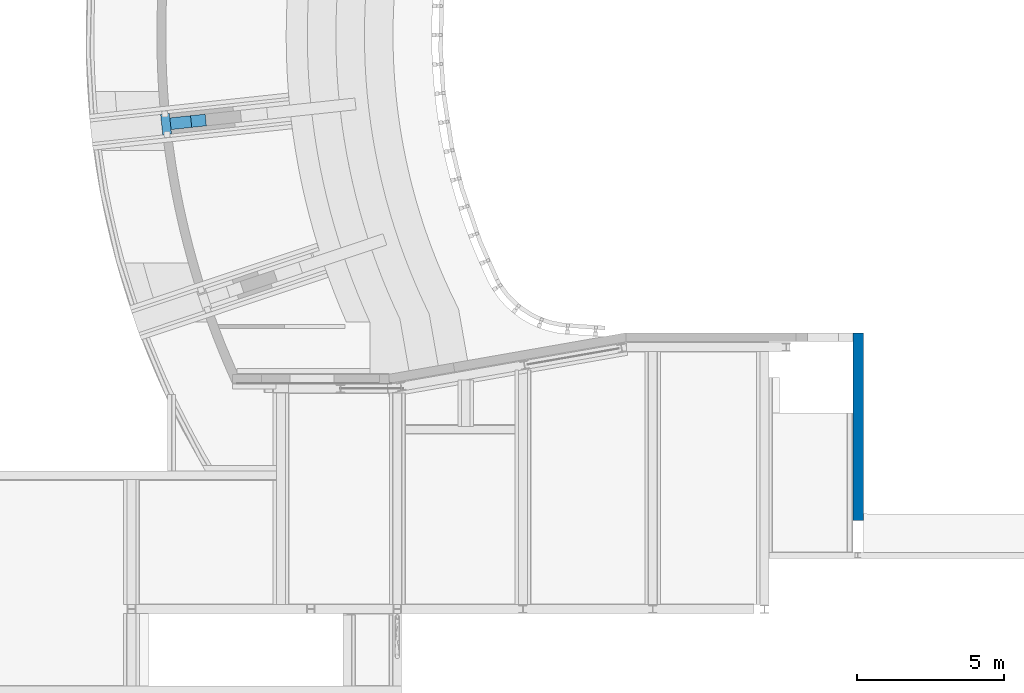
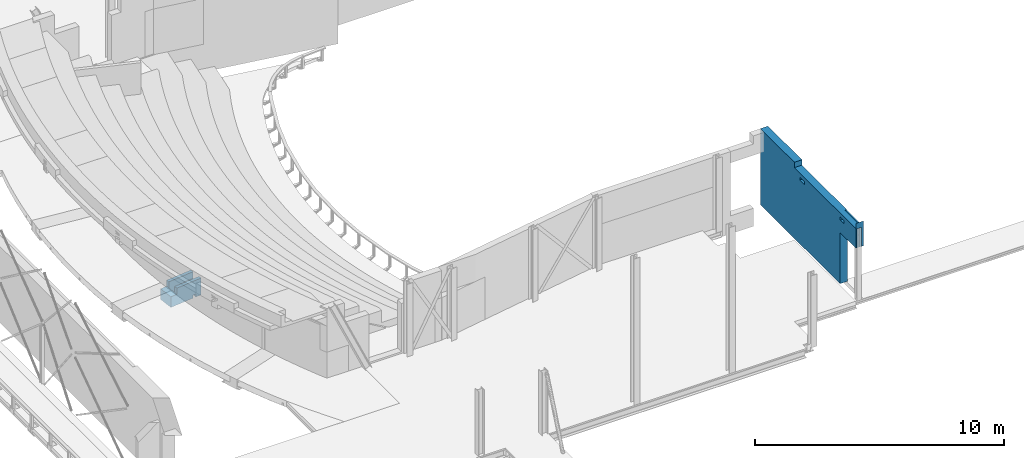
# One storey, part 66 of 68: 2 walls.
"""IFC2X3 building model written with IfcOpenShell, lengths in millimetres."""

from ifc_helpers import new_model, entity, si_unit, converted_unit, derived_unit, direction, frame, origin, place, context, subcontext, project, spatial, faceted_brep, material, layer, layer_set, type_object, element, save


model = new_model("IFC2X3")

# Units and contexts
model_context = context("Model", 3, precision=0.01, world=origin(), true_north=direction((6.12303176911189e-17, 1.0)))
body_context = subcontext(model_context, "Body", "Model", "MODEL_VIEW")
ifc_project = project(units=[si_unit("LENGTHUNIT", "METRE", prefix="MILLI"), si_unit("AREAUNIT", "SQUARE_METRE", prefix="MILLI"), si_unit("VOLUMEUNIT", "CUBIC_METRE"), converted_unit("PLANEANGLEUNIT", "DEGREE", entity("IfcRatioMeasure", 0.0174532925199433), si_unit("PLANEANGLEUNIT", "RADIAN"), dimensions=[0, 0, 0, 0, 0, 0, 0]), si_unit("MASSUNIT", "GRAM", prefix="KILO"), derived_unit("MASSDENSITYUNIT", [(si_unit("MASSUNIT", "GRAM", prefix="KILO"), 1), (si_unit("LENGTHUNIT", "METRE"), -3)]), derived_unit("MOMENTOFINERTIAUNIT", [(si_unit("LENGTHUNIT", "METRE"), 4)]), si_unit("TIMEUNIT", "SECOND"), si_unit("FREQUENCYUNIT", "HERTZ"), si_unit("THERMODYNAMICTEMPERATUREUNIT", "DEGREE_CELSIUS"), derived_unit("THERMALTRANSMITTANCEUNIT", [(si_unit("MASSUNIT", "GRAM", prefix="KILO"), 1), (si_unit("THERMODYNAMICTEMPERATUREUNIT", "KELVIN"), -1), (si_unit("TIMEUNIT", "SECOND"), -3)]), derived_unit("VOLUMETRICFLOWRATEUNIT", [(si_unit("LENGTHUNIT", "METRE"), 3), (si_unit("TIMEUNIT", "SECOND"), -1)]), si_unit("ELECTRICCURRENTUNIT", "AMPERE"), si_unit("ELECTRICVOLTAGEUNIT", "VOLT"), si_unit("POWERUNIT", "WATT"), si_unit("FORCEUNIT", "NEWTON", prefix="KILO"), si_unit("ILLUMINANCEUNIT", "LUX"), si_unit("LUMINOUSFLUXUNIT", "LUMEN"), si_unit("LUMINOUSINTENSITYUNIT", "CANDELA"), derived_unit("USERDEFINED", [(si_unit("MASSUNIT", "GRAM", prefix="KILO"), -1), (si_unit("LENGTHUNIT", "METRE"), -2), (si_unit("TIMEUNIT", "SECOND"), 3), (si_unit("LUMINOUSFLUXUNIT", "LUMEN"), 1)]), derived_unit("LINEARVELOCITYUNIT", [(si_unit("LENGTHUNIT", "METRE"), 1), (si_unit("TIMEUNIT", "SECOND"), -1)]), si_unit("PRESSUREUNIT", "PASCAL"), derived_unit("USERDEFINED", [(si_unit("LENGTHUNIT", "METRE"), -2), (si_unit("MASSUNIT", "GRAM", prefix="KILO"), 1), (si_unit("TIMEUNIT", "SECOND"), -2)]), derived_unit("LINEARFORCEUNIT", [(si_unit("MASSUNIT", "GRAM", prefix="KILO"), 1), (si_unit("LENGTHUNIT", "METRE"), 1), (si_unit("TIMEUNIT", "SECOND"), -2), (si_unit("LENGTHUNIT", "METRE"), -1)]), derived_unit("PLANARFORCEUNIT", [(si_unit("MASSUNIT", "GRAM", prefix="KILO"), 1), (si_unit("LENGTHUNIT", "METRE"), 1), (si_unit("TIMEUNIT", "SECOND"), -2), (si_unit("LENGTHUNIT", "METRE"), -2)])], contexts=[model_context])

# Site, building, storey
site_placement = place(None, origin())
site = spatial("IfcSite", under=ifc_project, at=site_placement, Name="Theater aan de Parade", CompositionType="ELEMENT")
building_placement = place(site_placement, origin())
building = spatial("IfcBuilding", under=site, at=building_placement, Name="Theater aan de Parade", CompositionType="ELEMENT")
storey_placement = place(building_placement, frame((0.0, 0.0, 8750.0)))
storey = spatial("IfcBuildingStorey", under=building, at=storey_placement, Name="02 tweede verdieping", CompositionType="ELEMENT", Elevation=8750.0)

# Walls
ifc_material = material(Name="00_PBT_MAT_beton t.p.g._C30/37")
ifc_layer_1 = layer(ifc_material, 350.0)
ifc_layer_set_1 = layer_set([ifc_layer_1], Name="Basic Wall:28_PBT_WA_beton t.p.g._d=350_C30/37")
wall_type_1 = type_object("IfcWallType", Name="Basic Wall:28_PBT_WA_beton t.p.g._d=350_C30/37", PredefinedType="STANDARD", material=ifc_layer_set_1)
wall_1_placement = place(storey_placement, frame((67531.2561009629, 14680.0, 0.0), z_axis=(0.0, 0.0, 1.0), x_axis=(0.0, 1.0, 0.0)))
element("IfcWall", 1, at=wall_1_placement, inside=storey, type_object=wall_type_1, Name="Basic Wall:28_PBT_WA_beton t.p.g._d=350_C30/37", ObjectType="Basic Wall:28_PBT_WA_beton t.p.g._d=350_C30/37", context=body_context, shape_type="Brep", body=[
    faceted_brep([(0.0, -175.0, 3730.0), (2.0, -175.0, 3730.0), (2.0, 175.0, 3730.0), (0.0, 175.0, 3730.0), (7360.0, -175.0, 3730.0), (7660.0, -175.0, 3730.0), (7660.0, 175.0, 3730.0), (7360.0, 175.0, 3730.0), (4940.81348587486, 175.0, 3730.0), (4940.81348587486, -175.0, 3730.0), (322.0, -175.0, 3450.0), (0.0, -175.0, 2510.0), (955.128702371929, -175.0, 3125.0), (955.128702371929, -175.0, 3275.0), (1347.0, -175.0, 3450.0), (161.658336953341, -175.0, 3470.0), (322.0, -175.0, 3470.0), (2.0, -175.0, 3470.0), (1280.13868170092, -175.0, 2510.0), (1255.12870237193, -175.0, 3125.0), (4105.0, -175.0, 3125.0), (1280.13868170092, -175.0, 0.0), (4505.0, -175.0, 3125.0), (7660.0, -175.0, 0.0), (4940.81348587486, -175.0, 3470.0), (4505.0, -175.0, 3275.0), (4105.0, -175.0, 3275.0), (1347.0, -175.0, 3470.0), (1255.12870237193, -175.0, 3275.0), (7660.0, 175.0, 2780.0), (7660.0, 175.0, 0.0), (4505.0, 175.0, 3125.0), (4940.81348587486, 175.0, 3470.0), (1280.13868170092, 175.0, 0.0), (4105.0, 175.0, 3125.0), (1280.13868170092, 175.0, 2510.0), (1255.12870237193, 175.0, 3125.0), (955.128702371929, 175.0, 3125.0), (0.0, 175.0, 2510.0), (2.0, 175.0, 3470.0), (1255.12870237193, 175.0, 3275.0), (955.128702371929, 175.0, 3275.0), (4105.0, 175.0, 3275.0), (4505.0, 175.0, 3275.0), (0.0, 115.199752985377, 2510.0), (0.0, 115.199752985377, 3450.0), (0.0, -84.8002470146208, 3450.0), (0.0, -84.8002470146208, 2510.0), (200.0, -84.8002470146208, 2510.0), (200.0, 115.199752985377, 2510.0), (185.0, 115.199752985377, 2510.0), (185.0, 37.6997529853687, 2510.0), (184.386664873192, 33.041010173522, 2510.0), (182.588457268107, 28.6997529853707, 2510.0), (179.727922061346, 24.9718309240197, 2510.0), (176.0, 22.1112957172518, 2510.0), (171.658742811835, 20.313088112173, 2510.0), (167.0, 19.6997529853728, 2510.0), (33.0, 19.6997529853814, 2510.0), (28.3412571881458, 20.313088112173, 2510.0), (24.0, 22.1112957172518, 2510.0), (20.2720779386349, 24.9718309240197, 2510.0), (17.4115427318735, 28.6997529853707, 2510.0), (15.6133351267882, 33.041010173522, 2510.0), (15.0, 37.6997529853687, 2510.0), (15.0, 115.199752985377, 2510.0), (15.0, -84.8002470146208, 2510.0), (15.0, -7.3002470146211, 2510.0), (15.6133351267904, -2.6415042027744, 2510.0), (17.4115427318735, 1.69975298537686, 2510.0), (20.2720779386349, 5.42767504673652, 2510.0), (24.0, 8.28821025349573, 2510.0), (28.341257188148, 10.0864178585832, 2510.0), (33.0, 10.6997529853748, 2510.0), (167.0, 10.6997529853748, 2510.0), (171.658742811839, 10.0864178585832, 2510.0), (176.0, 8.28821025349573, 2510.0), (179.72792206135, 5.42767504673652, 2510.0), (182.588457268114, 1.69975298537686, 2510.0), (184.386664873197, -2.6415042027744, 2510.0), (185.0, -7.3002470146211, 2510.0), (185.0, -84.8002470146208, 2510.0), (322.0, -95.0, 3450.0), (1347.0, -95.0, 3450.0), (322.0, -95.0, 3470.0), (1347.0, -95.0, 3470.0), (15.0, -7.30024701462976, 3450.0), (15.0, -84.8002470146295, 3450.0), (15.0, 115.199752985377, 3450.0), (15.0, 37.6997529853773, 3450.0), (15.6133351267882, 33.0410101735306, 3450.0), (17.4115427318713, 28.6997529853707, 3450.0), (20.2720779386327, 24.9718309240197, 3450.0), (24.0, 22.1112957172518, 3450.0), (28.3412571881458, 20.313088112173, 3450.0), (33.0, 19.6997529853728, 3450.0), (167.0, 19.6997529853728, 3450.0), (171.658742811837, 20.313088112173, 3450.0), (176.0, 22.1112957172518, 3450.0), (179.727922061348, 24.9718309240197, 3450.0), (182.588457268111, 28.6997529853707, 3450.0), (184.386664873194, 33.0410101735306, 3450.0), (185.0, 37.6997529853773, 3450.0), (185.0, 115.199752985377, 3450.0), (200.0, 115.199752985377, 3450.0), (200.0, -84.8002470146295, 3450.0), (185.0, -84.8002470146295, 3450.0), (185.0, -7.30024701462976, 3450.0), (184.386664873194, -2.64150420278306, 3450.0), (182.588457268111, 1.69975298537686, 3450.0), (179.72792206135, 5.42767504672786, 3450.0), (176.0, 8.28821025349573, 3450.0), (171.658742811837, 10.0864178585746, 3450.0), (167.0, 10.6997529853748, 3450.0), (33.0, 10.6997529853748, 3450.0), (28.341257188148, 10.0864178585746, 3450.0), (24.0, 8.28821025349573, 3450.0), (20.2720779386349, 5.42767504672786, 3450.0), (17.4115427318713, 1.69975298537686, 3450.0), (15.6133351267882, -2.64150420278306, 3450.0), (185.0, -7.3002470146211, 2658.14050789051), (185.0, -7.3002470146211, 2806.28101578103), (185.0, -7.3002470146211, 2954.42152367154), (185.0, -7.3002470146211, 3102.56203156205), (185.0, -7.3002470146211, 3276.28101578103), (185.0, 37.6997529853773, 3301.85954440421), (185.0, 37.6997529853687, 3153.71908880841), (185.0, 37.6997529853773, 3005.57863321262), (185.0, 37.6997529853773, 2857.43817761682), (185.0, 37.6997529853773, 2683.71908880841), (183.629831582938, 30.8114511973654, 2613.23432256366), (170.654533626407, 20.0746463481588, 2773.29697508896), (167.0, 19.6997529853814, 2806.28117440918), (167.0, 19.6997529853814, 2658.14084789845), (177.95770571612, 23.4193928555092, 2630.00545467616), (173.888301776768, 21.0699213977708, 2604.23433564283), (170.791474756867, 20.1035966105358, 2662.30840383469), (181.280360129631, 26.7420472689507, 3329.99454541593), (173.88830178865, 21.0699214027, 3346.7656774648), (170.10587971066, 19.9697357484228, 3345.9005804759), (170.431085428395, 20.0297882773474, 3240.6646205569), (167.0, 19.6997529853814, 3276.28143510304), (181.280360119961, 26.7420472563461, 2653.88997756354), (183.629831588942, 30.8114512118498, 3282.09502128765), (177.957705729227, 23.4193928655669, 3306.11002252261), (184.695025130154, 34.400346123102, 3227.78928910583), (184.030721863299, 31.8727028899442, 3108.18270539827), (184.730017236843, 34.5938732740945, 2614.09941959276), (177.957705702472, 23.4193928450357, 2899.64394500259), (179.186724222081, 24.4527249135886, 2764.82469984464), (182.077970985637, 27.8684361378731, 2884.57031620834), (171.51797787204, 20.275979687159, 3112.6438459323), (177.06295346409, 22.7753780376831, 3076.58552681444), (173.88830179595, 21.0699214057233, 3223.20352745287), (184.489712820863, 33.4441748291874, 2993.0395606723), (184.6699647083, 34.2686675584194, 2719.33537957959), (167.0, 19.6997529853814, 3102.56234881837), (167.0, 19.6997529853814, 2954.42150091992), (169.810988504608, 19.9205982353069, 3020.61011573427), (181.280360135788, 26.7420472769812, 3162.25661684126), (184.622079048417, 34.0306481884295, 3340.56342178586), (178.436120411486, 23.7995677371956, 3186.71064953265), (181.791443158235, 27.4424039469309, 2765.6313217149), (183.629831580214, 30.8114511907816, 2736.79647261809), (176.245541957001, 22.2556617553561, 2803.79506275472), (173.888301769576, 21.0699213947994, 2720.38247201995), (184.423773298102, 33.1817751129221, 2847.35615425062), (180.43973267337, 25.7258820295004, 3008.527075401), (176.408509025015, 22.3543967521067, 2981.23481474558), (182.984761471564, 29.4240414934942, 3003.54038453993), (172.172715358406, 20.459015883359, 2880.35118489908), (173.257833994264, 20.8225638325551, 3000.10572899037), (175.193934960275, 21.6729183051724, 2891.88624357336), (15.0, -7.3002470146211, 3301.85954840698), (15.0, -7.3002470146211, 3153.71909681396), (15.0, -7.3002470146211, 3005.57864522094), (15.0, -7.3002470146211, 2857.43819362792), (15.0, -7.3002470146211, 2683.71909681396), (15.0, 37.6997529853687, 2658.14049066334), (15.0, 37.6997529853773, 2806.28053625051), (15.0, 37.6997529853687, 2954.42102691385), (15.0, 37.6997529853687, 3102.5615175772), (15.0, 37.6997529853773, 3276.28098132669), (33.0, 19.6997529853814, 3301.85956919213), (33.0, 19.6997529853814, 3153.71913838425), (33.0, 19.6997529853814, 3005.57870757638), (33.0, 19.6997529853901, 2857.43827676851), (33.0, 19.6997529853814, 2683.71913838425), (33.0, 10.6997529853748, 2658.1403790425), (33.0, 10.6997529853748, 2806.28097679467), (33.0, 10.6997529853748, 2954.42157454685), (33.0, 10.6997529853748, 3102.56195358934), (33.0, 10.6997529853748, 3276.28086743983), (167.0, 10.6997529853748, 3301.85934615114), (167.0, 10.6997529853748, 3153.71890787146), (167.0, 10.6997529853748, 3005.57846959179), (167.0, 10.6997529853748, 2857.43803131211), (167.0, 10.6997529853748, 2683.71901565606), (184.625106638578, -3.64571339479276, 2773.29697435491), (184.779154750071, -4.48925851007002, 3020.61011604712), (181.280360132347, 3.65745869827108, 2630.00545436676), (177.957705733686, 6.98011310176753, 2653.88997742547), (173.888301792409, 9.32958456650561, 2613.23432265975), (177.957705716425, 6.98011311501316, 3329.99454562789), (183.629831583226, -0.41194522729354, 3346.76567747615), (184.730017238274, -4.19436731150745, 3345.90058059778), (184.669964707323, -3.86916158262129, 3240.66462108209), (184.596156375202, -3.50877225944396, 2662.30840343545), (183.629831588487, -0.411945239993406, 2604.2343354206), (170.299406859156, 10.3947781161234, 3227.78928928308), (172.82705009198, 9.73047484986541, 3108.18270582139), (181.280360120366, 3.65745871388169, 3306.11002267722), (170.105879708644, 10.4297702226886, 2614.09941951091), (170.431085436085, 10.3697176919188, 2719.3353793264), (183.629831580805, -0.411945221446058, 3223.20352755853), (184.423773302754, -2.78226916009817, 3112.64384700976), (181.924374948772, 2.76270644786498, 3076.58552637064), (181.280360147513, 3.65745867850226, 2899.64394415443), (180.247028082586, 4.8864771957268, 2764.82469927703), (176.831316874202, 7.77772395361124, 2884.5703149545), (171.25557814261, 10.1894658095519, 2993.03956204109), (173.888301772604, 9.32958457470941, 3282.09502117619), (177.957705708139, 6.98011312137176, 3162.25661638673), (170.669104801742, 10.3218320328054, 3340.56342183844), (180.900185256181, 4.13587338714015, 3186.71064946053), (177.257349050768, 7.49119613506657, 2765.63132136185), (173.88830180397, 9.329584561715, 2736.79647270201), (182.444091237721, 1.9452949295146, 2803.79506224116), (183.629831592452, -0.411945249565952, 2720.382471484), (171.517977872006, 10.1235262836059, 2847.35615382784), (178.973870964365, 6.13948565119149, 3008.52707437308), (182.345356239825, 2.10826199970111, 2981.23481419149), (175.275711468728, 8.68451446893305, 3003.54038343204), (184.240737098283, -2.12753164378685, 2880.35118454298), (183.877189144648, -1.04241299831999, 3000.10572954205), (183.026834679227, 0.893687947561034, 2891.88624260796), (15.3049748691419, -4.00084015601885, 3227.78928921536), (15.9692781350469, -1.47319692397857, 3108.18270562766), (16.3701684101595, -0.411945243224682, 3282.0950211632), (22.042294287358, 6.98011311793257, 2630.00545455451), (26.1116982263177, 9.3295845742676, 2604.23433546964), (29.2085252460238, 10.2959093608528, 2662.30840354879), (16.3701684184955, -0.411945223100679, 2613.23432265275), (18.7196398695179, 3.65745870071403, 3329.99454553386), (26.1116982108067, 9.3295845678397, 3346.76567742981), (29.8941202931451, 10.4297702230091, 3345.900580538), (29.5689145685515, 10.3697176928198, 3240.66462079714), (18.7196398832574, 3.65745871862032, 2653.8899775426), (22.0422942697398, 6.98011310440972, 3306.11002258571), (15.5102871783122, -3.04466886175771, 2993.03956113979), (29.3454663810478, 10.3248596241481, 2773.29697456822), (15.269982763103, -4.19436730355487, 2614.09941957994), (22.0422943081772, 6.98011313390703, 2899.643944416), (20.8132757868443, 5.94678106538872, 2764.8246995), (17.9220290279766, 2.53106985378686, 2884.57031552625), (26.1116982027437, 9.32958456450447, 3223.20352743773), (28.4820221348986, 10.1235262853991, 3112.6438463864), (22.9370465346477, 7.62412793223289, 3076.58552648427), (15.3300352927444, -3.86916158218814, 2719.33537955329), (30.1890114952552, 10.478907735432, 3020.61011584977), (18.7196398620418, 3.65745869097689, 3162.25661643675), (15.3779209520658, -3.63114221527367, 3340.56342181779), (21.5638795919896, 6.59993823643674, 3186.71064942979), (18.2085568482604, 2.95710203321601, 2765.63132160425), (16.3701684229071, -0.411945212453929, 2736.79647274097), (23.7544580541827, 8.14384422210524, 2803.79506234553), (26.1116982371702, 9.32958457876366, 2720.38247164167), (15.5762267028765, -2.78226913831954, 2847.35615424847), (19.5602673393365, 4.67362395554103, 3008.52707445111), (23.5914909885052, 8.0451092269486, 2981.23481438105), (17.0152385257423, 0.975464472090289, 3003.54038405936), (27.8272846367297, 9.94049008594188, 2880.35118465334), (26.7421659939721, 9.5769421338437, 3000.10572915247), (24.8060650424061, 8.72658766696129, 2891.88624287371), (26.1116982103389, 21.0699214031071, 2613.23432260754), (15.3748933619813, 34.0452193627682, 2773.29697486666), (18.7196398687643, 26.7420472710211, 2630.005454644), (16.3701684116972, 30.8114512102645, 2604.23433556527), (15.4038436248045, 33.9082782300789, 2662.30840371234), (22.0422942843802, 23.4193928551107, 3329.99454546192), (16.3701684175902, 30.81145119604, 3346.76567744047), (15.2699827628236, 34.5938732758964, 3345.90058049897), (15.3300352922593, 34.2686675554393, 3240.66462062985), (22.0422942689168, 23.4193928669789, 2653.88997757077), (26.1116982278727, 21.0699213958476, 3282.09502122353), (18.7196398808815, 26.7420472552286, 3306.11002254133), (29.7005931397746, 20.0047278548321, 3227.78928915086), (27.1729499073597, 20.6690311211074, 3108.18270549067), (29.8941202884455, 19.9697357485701, 2614.09941959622), (18.7196398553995, 26.7420472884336, 2899.64394475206), (19.7529719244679, 25.5130287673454, 2764.82469970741), (23.1686831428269, 22.6217820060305, 2884.57031595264), (15.5762267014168, 33.1817751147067, 3112.64384605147), (18.0756250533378, 27.6367995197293, 3076.58552667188), (16.3701684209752, 30.8114511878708, 3223.20352742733), (28.7444218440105, 20.2100401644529, 2993.03956077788), (29.5689145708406, 20.0297882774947, 2719.33537960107), (15.22084525, 34.8887644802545, 3020.61011575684), (22.0422942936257, 23.4193928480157, 3162.25661664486), (29.3308952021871, 20.0776739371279, 3340.56342179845), (19.0998147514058, 26.2636325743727, 3186.71064948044), (22.7426509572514, 22.9083098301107, 2765.63132169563), (26.1116982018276, 21.0699214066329, 2736.79647268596), (17.5559087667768, 28.4542110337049, 2803.79506256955), (16.3701684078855, 30.8114512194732, 2720.38247185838), (28.4820221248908, 20.2759796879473, 2847.35615431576), (21.0261290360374, 24.2600203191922, 3008.52707492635), (17.6546437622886, 28.2912439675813, 2981.23481459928), (24.7242885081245, 21.7149915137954, 3003.54038439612), (15.7592628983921, 32.527037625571, 2880.3511848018), (16.1228108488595, 31.4419189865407, 3000.10572900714), (16.9731653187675, 29.5058180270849, 2891.8862432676)], [[[0, 1, 2, 3]], [[4, 5, 6, 7, 8, 9]], [[10, 11, 12]], [[10, 12, 13]], [[10, 13, 14]], [[11, 10, 15]], [[15, 10, 16]], [[15, 17, 11]], [[17, 0, 11]], [[0, 17, 1]], [[12, 11, 18]], [[19, 12, 18]], [[19, 18, 20]], [[18, 21, 20]], [[22, 20, 21]], [[23, 22, 21]], [[24, 22, 23]], [[24, 23, 4]], [[23, 5, 4]], [[24, 4, 9]], [[25, 22, 24]], [[25, 24, 26]], [[24, 27, 26]], [[14, 26, 27]], [[14, 20, 26]], [[19, 20, 14]], [[14, 28, 19]], [[28, 14, 13]], [[29, 30, 31]], [[29, 31, 32]], [[32, 7, 29]], [[6, 29, 7]], [[31, 30, 33]], [[33, 34, 31]], [[33, 35, 34]], [[36, 34, 35]], [[35, 37, 36]], [[37, 35, 38]], [[37, 38, 39]], [[3, 39, 38]], [[39, 3, 2]], [[39, 32, 40]], [[41, 39, 40]], [[41, 37, 39]], [[42, 34, 36]], [[36, 40, 42]], [[43, 42, 32]], [[40, 32, 42]], [[43, 32, 31]], [[32, 8, 7]], [[23, 21, 33, 30]], [[5, 23, 30, 29, 6]], [[0, 3, 38, 44, 45, 46, 47, 11]], [[35, 33, 21, 18]], [[48, 49, 50, 51, 52, 53, 54, 55, 56, 57, 58, 59, 60, 61, 62, 63, 64, 65, 44, 38, 35, 18, 11, 47, 66, 67, 68, 69, 70, 71, 72, 73, 74, 75, 76, 77, 78, 79, 80, 81]], [[82, 10, 14, 83]], [[16, 10, 82, 84]], [[84, 82, 83, 85]], [[85, 83, 14, 27]], [[16, 84, 85, 27, 24, 32, 39, 17, 15]], [[8, 32, 24, 9]], [[1, 17, 39, 2]], [[34, 42, 26, 20]], [[31, 34, 20, 22]], [[37, 12, 19, 36]], [[43, 31, 22, 25]], [[42, 43, 25, 26]], [[40, 28, 13, 41]], [[37, 41, 13, 12]], [[40, 36, 19, 28]], [[86, 87, 46, 45, 88, 89, 90, 91, 92, 93, 94, 95, 96, 97, 98, 99, 100, 101, 102, 103, 104, 105, 106, 107, 108, 109, 110, 111, 112, 113, 114, 115, 116, 117, 118, 119]], [[106, 105, 48, 81]], [[87, 66, 47, 46]], [[106, 81, 80, 120, 121, 122, 123, 124, 107]], [[50, 103, 102, 125, 126, 127, 128, 129, 51]], [[104, 103, 50, 49]], [[88, 45, 44, 65]], [[53, 52, 130]], [[131, 132, 133]], [[54, 134, 55]], [[135, 136, 56]], [[133, 136, 131]], [[137, 100, 99]], [[138, 139, 140]], [[141, 139, 96]], [[53, 130, 142]], [[100, 143, 101]], [[144, 137, 99]], [[126, 145, 146]], [[145, 126, 125]], [[144, 98, 138]], [[147, 51, 129]], [[148, 149, 150]], [[98, 144, 99]], [[151, 152, 153]], [[53, 142, 54]], [[56, 55, 135]], [[97, 138, 98]], [[127, 126, 154, 128]], [[134, 54, 142]], [[130, 147, 155]], [[156, 157, 158]], [[153, 140, 151]], [[146, 143, 159]], [[143, 145, 160]], [[161, 153, 152]], [[138, 140, 153]], [[137, 159, 143]], [[142, 162, 149]], [[130, 155, 163]], [[164, 134, 149]], [[137, 144, 161]], [[56, 136, 57]], [[101, 160, 102]], [[143, 100, 137]], [[149, 134, 142]], [[135, 134, 165]], [[144, 138, 153]], [[162, 142, 163]], [[164, 149, 148]], [[166, 163, 155]], [[167, 152, 168]], [[169, 159, 167]], [[139, 138, 97]], [[96, 139, 97]], [[139, 141, 140]], [[141, 156, 140]], [[151, 140, 156]], [[170, 171, 158]], [[172, 171, 170]], [[167, 148, 150]], [[161, 152, 159]], [[132, 170, 157]], [[164, 170, 165]], [[164, 172, 170]], [[147, 130, 52]], [[142, 130, 163]], [[51, 147, 52]], [[147, 129, 155]], [[129, 128, 155]], [[166, 155, 128]], [[146, 169, 154]], [[150, 163, 166]], [[134, 135, 55]], [[146, 154, 126]], [[136, 135, 165]], [[136, 165, 131]], [[136, 133, 57]], [[165, 170, 131]], [[170, 132, 131]], [[169, 167, 150]], [[159, 152, 167]], [[166, 169, 150]], [[159, 169, 146]], [[169, 166, 154]], [[128, 154, 166]], [[160, 145, 125]], [[146, 145, 143]], [[102, 160, 125]], [[143, 160, 101]], [[163, 150, 162]], [[150, 149, 162]], [[164, 148, 172]], [[134, 164, 165]], [[148, 168, 172]], [[171, 152, 151]], [[171, 172, 168]], [[158, 171, 151]], [[167, 168, 148]], [[171, 168, 152]], [[156, 158, 151]], [[170, 158, 157]], [[137, 161, 159]], [[153, 161, 144]], [[87, 86, 173, 174, 175, 176, 177, 67, 66]], [[65, 64, 178, 179, 180, 181, 182, 89, 88]], [[58, 57, 133, 132, 157, 156, 141, 96, 95, 183, 184, 185, 186, 187]], [[74, 73, 188, 189, 190, 191, 192, 114, 113, 193, 194, 195, 196, 197]], [[105, 104, 49, 48]], [[198, 121, 120]], [[123, 122, 199]], [[200, 77, 201]], [[202, 76, 75]], [[78, 77, 200]], [[203, 111, 110]], [[204, 205, 206]], [[124, 205, 107]], [[76, 202, 201]], [[207, 79, 208]], [[76, 201, 77]], [[120, 207, 198]], [[194, 209, 210]], [[109, 211, 110]], [[212, 74, 197]], [[202, 212, 213]], [[209, 194, 193]], [[214, 215, 216]], [[211, 109, 204]], [[108, 204, 109]], [[217, 218, 219]], [[211, 203, 110]], [[214, 206, 215]], [[208, 79, 78]], [[195, 194, 220, 196]], [[111, 221, 112]], [[210, 221, 222]], [[221, 209, 223]], [[224, 214, 216]], [[204, 206, 214]], [[203, 222, 221]], [[201, 225, 218]], [[202, 213, 226]], [[227, 200, 218]], [[203, 211, 224]], [[79, 207, 80]], [[112, 223, 113]], [[221, 111, 203]], [[218, 200, 201]], [[208, 200, 228]], [[225, 201, 226]], [[227, 218, 217]], [[229, 226, 213]], [[230, 216, 231]], [[232, 222, 230]], [[205, 204, 108]], [[211, 204, 214]], [[107, 205, 108]], [[205, 124, 206]], [[124, 123, 206]], [[215, 206, 123]], [[233, 234, 199]], [[235, 234, 233]], [[230, 217, 219]], [[224, 216, 222]], [[121, 233, 122]], [[227, 233, 228]], [[227, 235, 233]], [[212, 202, 75]], [[201, 202, 226]], [[74, 212, 75]], [[212, 197, 213]], [[197, 196, 213]], [[229, 213, 196]], [[210, 232, 220]], [[219, 226, 229]], [[200, 208, 78]], [[210, 220, 194]], [[207, 208, 228]], [[207, 228, 198]], [[207, 120, 80]], [[228, 233, 198]], [[233, 121, 198]], [[232, 230, 219]], [[222, 216, 230]], [[229, 232, 219]], [[222, 232, 210]], [[232, 229, 220]], [[196, 220, 229]], [[223, 209, 193]], [[210, 209, 221]], [[113, 223, 193]], [[221, 223, 112]], [[226, 219, 225]], [[219, 218, 225]], [[227, 217, 235]], [[200, 227, 228]], [[217, 231, 235]], [[234, 216, 215]], [[234, 235, 231]], [[199, 234, 215]], [[230, 231, 217]], [[234, 231, 216]], [[123, 199, 215]], [[233, 199, 122]], [[203, 224, 222]], [[214, 224, 211]], [[174, 236, 237]], [[118, 238, 119]], [[70, 239, 71]], [[240, 241, 72]], [[69, 68, 242]], [[243, 118, 117]], [[244, 245, 246]], [[192, 245, 114]], [[69, 242, 247]], [[248, 243, 117]], [[116, 248, 117]], [[175, 174, 249, 176]], [[250, 189, 188]], [[236, 174, 173]], [[251, 67, 177]], [[252, 253, 254]], [[188, 241, 250]], [[255, 256, 257]], [[255, 246, 256]], [[72, 71, 240]], [[116, 115, 244]], [[248, 116, 244]], [[239, 70, 247]], [[242, 251, 258]], [[191, 190, 259]], [[69, 247, 70]], [[237, 238, 260]], [[238, 236, 261]], [[262, 255, 257]], [[244, 246, 255]], [[243, 260, 238]], [[247, 263, 253]], [[242, 258, 264]], [[265, 239, 253]], [[243, 248, 262]], [[72, 241, 73]], [[119, 261, 86]], [[238, 118, 243]], [[253, 239, 247]], [[240, 239, 266]], [[248, 244, 255]], [[263, 247, 264]], [[265, 253, 252]], [[267, 264, 258]], [[268, 257, 269]], [[270, 260, 268]], [[245, 244, 115]], [[114, 245, 115]], [[245, 192, 246]], [[192, 191, 246]], [[256, 246, 191]], [[271, 272, 259]], [[273, 272, 271]], [[268, 252, 254]], [[262, 257, 260]], [[189, 271, 190]], [[265, 271, 266]], [[265, 273, 271]], [[251, 242, 68]], [[247, 242, 264]], [[67, 251, 68]], [[251, 177, 258]], [[177, 176, 258]], [[267, 258, 176]], [[237, 270, 249]], [[254, 264, 267]], [[239, 240, 71]], [[237, 249, 174]], [[241, 240, 266]], [[241, 266, 250]], [[241, 188, 73]], [[266, 271, 250]], [[271, 189, 250]], [[270, 268, 254]], [[260, 257, 268]], [[267, 270, 254]], [[260, 270, 237]], [[270, 267, 249]], [[176, 249, 267]], [[261, 236, 173]], [[237, 236, 238]], [[86, 261, 173]], [[238, 261, 119]], [[264, 254, 263]], [[254, 253, 263]], [[265, 252, 273]], [[239, 265, 266]], [[252, 269, 273]], [[272, 257, 256]], [[272, 273, 269]], [[259, 272, 256]], [[268, 269, 252]], [[272, 269, 257]], [[191, 259, 256]], [[271, 259, 190]], [[243, 262, 260]], [[255, 262, 248]], [[60, 59, 274]], [[275, 179, 178]], [[61, 276, 62]], [[277, 278, 63]], [[178, 278, 275]], [[279, 93, 92]], [[280, 281, 282]], [[182, 281, 89]], [[60, 274, 283]], [[93, 284, 94]], [[285, 279, 92]], [[184, 286, 287]], [[286, 184, 183]], [[285, 91, 280]], [[288, 58, 187]], [[289, 290, 291]], [[91, 285, 92]], [[292, 293, 294]], [[60, 283, 61]], [[63, 62, 277]], [[90, 280, 91]], [[185, 184, 295, 186]], [[276, 61, 283]], [[274, 288, 296]], [[181, 180, 297]], [[294, 282, 292]], [[287, 284, 298]], [[284, 286, 299]], [[300, 294, 293]], [[280, 282, 294]], [[279, 298, 284]], [[283, 301, 290]], [[274, 296, 302]], [[303, 276, 290]], [[279, 285, 300]], [[63, 278, 64]], [[94, 299, 95]], [[284, 93, 279]], [[290, 276, 283]], [[277, 276, 304]], [[301, 283, 302]], [[303, 290, 289]], [[305, 302, 296]], [[306, 293, 307]], [[308, 298, 306]], [[281, 280, 90]], [[285, 280, 294]], [[89, 281, 90]], [[281, 182, 282]], [[182, 181, 282]], [[292, 282, 181]], [[309, 310, 297]], [[311, 310, 309]], [[306, 289, 291]], [[300, 293, 298]], [[179, 309, 180]], [[303, 309, 304]], [[303, 311, 309]], [[288, 274, 59]], [[283, 274, 302]], [[58, 288, 59]], [[288, 187, 296]], [[187, 186, 296]], [[305, 296, 186]], [[287, 308, 295]], [[291, 302, 305]], [[276, 277, 62]], [[287, 295, 184]], [[278, 277, 304]], [[278, 304, 275]], [[278, 178, 64]], [[304, 309, 275]], [[309, 179, 275]], [[308, 306, 291]], [[298, 293, 306]], [[305, 308, 291]], [[298, 308, 287]], [[308, 305, 295]], [[186, 295, 305]], [[299, 286, 183]], [[287, 286, 284]], [[95, 299, 183]], [[284, 299, 94]], [[302, 291, 301]], [[291, 290, 301]], [[303, 289, 311]], [[276, 303, 304]], [[289, 307, 311]], [[310, 293, 292]], [[310, 311, 307]], [[297, 310, 292]], [[306, 307, 289]], [[310, 307, 293]], [[181, 297, 292]], [[309, 297, 180]], [[279, 300, 298]], [[294, 300, 285]]]),
])
ifc_layer_2 = layer(ifc_material, 700.0)
ifc_layer_set_2 = layer_set([ifc_layer_2], Name="Basic Wall:28_PBT_WA_beton t.p.g._d=700_C30/37")
wall_type_2 = type_object("IfcWallType", Name="Basic Wall:28_PBT_WA_beton t.p.g._d=700_C30/37", PredefinedType="STANDARD", material=ifc_layer_set_2)
wall_2_placement = place(storey_placement, frame((45370.5604171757, 29568.9991620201, -900.0), z_axis=(0.0, 0.0, 1.0), x_axis=(-0.994276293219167, -0.106839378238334, 0.0)))
element("IfcWall", 2, at=wall_2_placement, inside=storey, type_object=wall_type_2, Name="Basic Wall:28_PBT_WA_beton t.p.g._d=700_C30/37", ObjectType="Basic Wall:28_PBT_WA_beton t.p.g._d=700_C30/37", context=body_context, shape_type="Brep", body=[
    faceted_brep([(1506.6621284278, -350.0, 0.0), (410.164919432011, -350.0, 0.0), (410.164919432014, 350.0, 0.0), (1506.6621284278, 350.0, 0.0), (0.0, -350.0, 0.0), (0.0, -200.0, 0.0), (0.0, 200.0, 0.0), (0.0, 350.0, 0.0), (260.164919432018, 350.0, 0.0), (260.164919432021, 200.0, 0.0), (260.164919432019, -200.0, 0.0), (260.164919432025, -350.0, 0.0), (0.0, 200.0, 820.0), (1205.4047793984, 200.0, 820.0), (1205.40477939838, 350.0, 820.0), (0.0, 350.0, 820.0), (1205.24239666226, -350.0, 820.0), (1205.40477939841, -350.0, 820.0), (1205.4047793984, -200.0, 820.0), (1205.24239666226, -200.0, 820.0), (0.0, -200.0, 820.0), (0.0, -350.0, 820.0), (1205.4047793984, 200.0, 520.0), (1205.40477939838, 350.0, 520.0), (1205.40477939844, -350.0, 520.0), (1205.4047793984, -200.0, 520.0), (260.164919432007, -350.0, 150.0), (410.164919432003, -350.0, 150.0), (1506.6621284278, -350.0, 345.0), (1506.66212842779, -350.0, 520.0), (0.0, -350.0, 520.0), (1506.6621284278, 350.0, 345.0), (410.164919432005, 350.0, 150.0), (260.16491943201, 350.0, 150.0), (0.0, 350.0, 520.0), (1506.6621284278, 350.0, 520.0), (1206.01318887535, 200.0, 520.0), (0.0, 200.0, 500.0), (500.0, 200.0, 500.0), (500.0, 200.0, 150.0), (1206.01318887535, 200.0, 150.0), (1205.89509497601, -200.0, 150.0), (500.0, -200.0, 150.0), (500.0, -200.0, 500.0), (0.0, -200.0, 500.0), (1205.89509497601, -200.0, 520.0), (1206.66211542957, -0.000209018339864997, 150.0), (1206.66211542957, -0.000209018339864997, 520.0)], [[[0, 1, 2, 3]], [[4, 5, 6, 7, 8, 9, 10, 11]], [[12, 13, 14, 15]], [[16, 17, 18, 19, 20, 21]], [[13, 22, 23, 14]], [[18, 17, 24, 25]], [[26, 27, 1, 0, 28, 29, 24, 17, 16, 21, 30, 4, 11]], [[31, 3, 2, 32, 33, 8, 7, 34, 15, 14, 23, 35]], [[28, 0, 3, 31, 35, 29]], [[36, 22, 13, 12, 37, 38, 39, 40]], [[41, 42, 43, 44, 20, 19, 18, 25, 45]], [[43, 38, 37, 44]], [[46, 40, 39, 42, 41]], [[42, 39, 38, 43]], [[46, 47, 36, 40]], [[41, 45, 47, 46]], [[45, 25, 24, 29, 35, 23, 22, 36, 47]], [[2, 1, 27, 32]], [[9, 8, 33, 26, 11, 10]], [[33, 32, 27, 26]], [[21, 20, 44, 37, 12, 15, 34, 7, 6, 5, 4, 30]]]),
])

save(model, "model.ifc")
